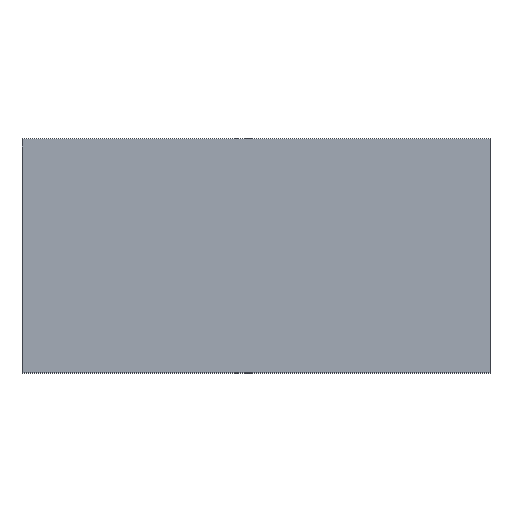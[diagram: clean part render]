
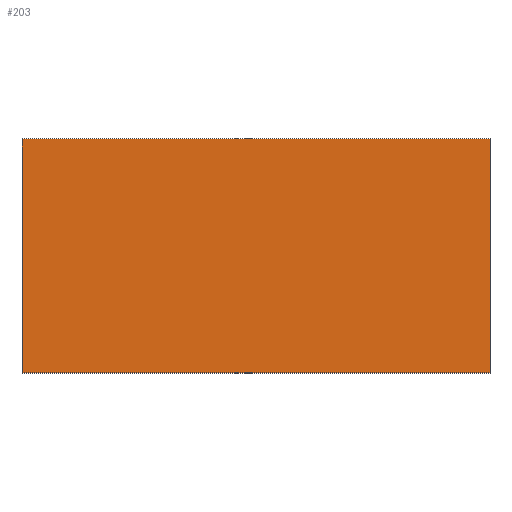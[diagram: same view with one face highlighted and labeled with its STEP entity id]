
A CAD part, top view. The second image highlights one B-rep face of the part: STEP entity #203.
In plain terms, the highlighted planar face has unit normal (0, 0, 1).
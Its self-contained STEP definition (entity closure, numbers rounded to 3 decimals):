
#73=CARTESIAN_POINT('',(-30.0,15.0,5.0));
#74=VERTEX_POINT('',#73);
#75=CARTESIAN_POINT('',(30.0,15.0,5.0));
#76=VERTEX_POINT('',#75);
#77=CARTESIAN_POINT('',(-30.0,15.0,5.0));
#78=DIRECTION('',(1.0,0.0,0.0));
#79=VECTOR('',#78,60.0);
#80=LINE('',#77,#79);
#81=EDGE_CURVE('',#74,#76,#80,.T.);
#113=CARTESIAN_POINT('',(30.0,-15.0,5.0));
#114=VERTEX_POINT('',#113);
#115=CARTESIAN_POINT('',(30.0,15.0,5.0));
#116=DIRECTION('',(0.0,-1.0,0.0));
#117=VECTOR('',#116,30.0);
#118=LINE('',#115,#117);
#119=EDGE_CURVE('',#76,#114,#118,.T.);
#144=CARTESIAN_POINT('',(-30.0,-15.0,5.0));
#145=VERTEX_POINT('',#144);
#146=CARTESIAN_POINT('',(30.0,-15.0,5.0));
#147=DIRECTION('',(-1.0,0.0,0.0));
#148=VECTOR('',#147,60.0);
#149=LINE('',#146,#148);
#150=EDGE_CURVE('',#114,#145,#149,.T.);
#175=CARTESIAN_POINT('',(-30.0,-15.0,5.0));
#176=DIRECTION('',(0.0,1.0,0.0));
#177=VECTOR('',#176,30.0);
#178=LINE('',#175,#177);
#179=EDGE_CURVE('',#145,#74,#178,.T.);
#192=CARTESIAN_POINT('',(0.,0.0,5.0));
#193=DIRECTION('',(0.0,0.0,1.0));
#194=DIRECTION('',(1.0,0.0,0.0));
#195=AXIS2_PLACEMENT_3D('',#192,#193,#194);
#196=PLANE('',#195);
#197=ORIENTED_EDGE('',*,*,#81,.F.);
#198=ORIENTED_EDGE('',*,*,#179,.F.);
#199=ORIENTED_EDGE('',*,*,#150,.F.);
#200=ORIENTED_EDGE('',*,*,#119,.F.);
#201=EDGE_LOOP('',(#197,#198,#199,#200));
#202=FACE_OUTER_BOUND('',#201,.T.);
#203=ADVANCED_FACE('',(#202),#196,.T.);
